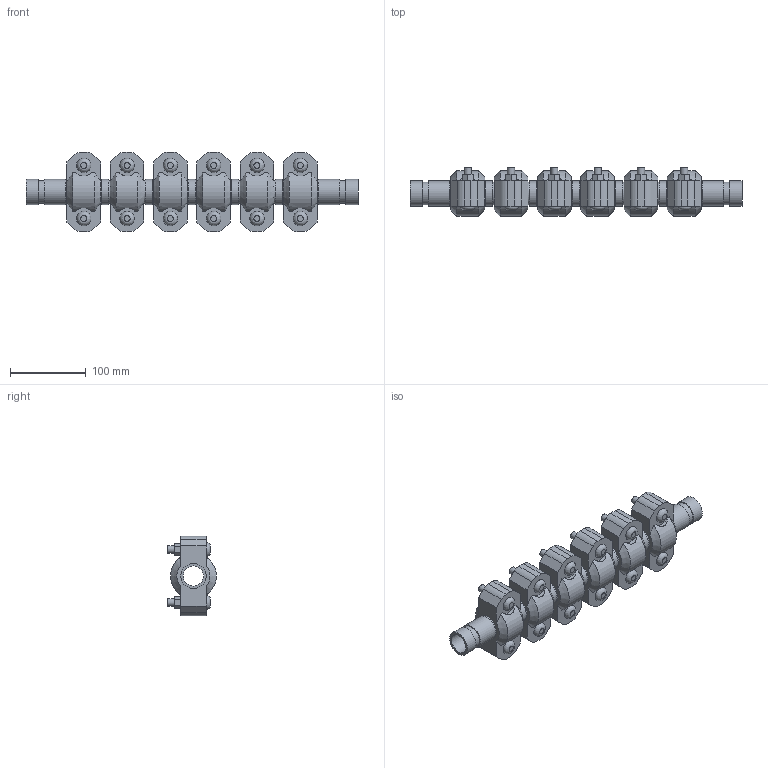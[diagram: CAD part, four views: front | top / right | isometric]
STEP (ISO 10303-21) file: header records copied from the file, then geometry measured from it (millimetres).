
FILE_DESCRIPTION(/* description */ ('VIC EXPANSION JOINT 6 COUPLINGS COMPRESSED STYLE 155 (OGS)','CAx-IF Rec.Pracs.---Representation and Presentation of Product Manufacturing Information (PMI)---4.0---2014-10-13'),/* implementation_level */ '2;1');
FILE_NAME(/* name */ 'C:\Users\kkamble\AppData\Roaming\Autodesk\ApplicationPlugins\Victaulic.Temp\A354\Victaulic_IPS_Expansion Joint_Compressed_6 Couplings_Style 155 (OGS)_1 (25).stp',/* time_stamp */ '2021-06-27T00:31:15+02:00',/* author */ ('kkamble'),/* organization */ ('Victaulic'),/* preprocessor_version */ 'ST-DEVELOPER v17.2',/* originating_system */ 'Autodesk Inventor 2019',/* authorisation */ '');
FILE_SCHEMA (('AP242_MANAGED_MODEL_BASED_3D_ENGINEERING_MIM_LF { 1 0 10303 442 1 1 4 }'));
Length unit declared in the file: inch
Products named in the file (4): 155-01.0; Nipple-01.0; Nipple-01.0_1; 077-01.0
Assembly tree (13 placements, depth 2):
  155-01.0
    Nipple-01.0  x2
    Nipple-01.0_1  x5
    077-01.0  x6
Bounding box: 438.15 x 64.33 x 104.65 mm (x, y, z)
Volume: 993331.2 mm3; surface area: 262153.2 mm2
Topology: 13 solids, 25 shells, 426 faces, 1044 edges, 732 vertices
Faces by surface type: plane 246, cylinder 144, cone 24, bspline 12
Full cylindrical faces by diameter (mm): 9.525 x24, 11.43 x12, 26.645 x7, 30.226 x14, 33.401 x27
Entity records: 2907 total; most frequent: CARTESIAN_POINT 559, DIRECTION 471, ORIENTED_EDGE 398, EDGE_CURVE 199, AXIS2_PLACEMENT_3D 188, VERTEX_POINT 142, EDGE_LOOP 105, LINE 95
